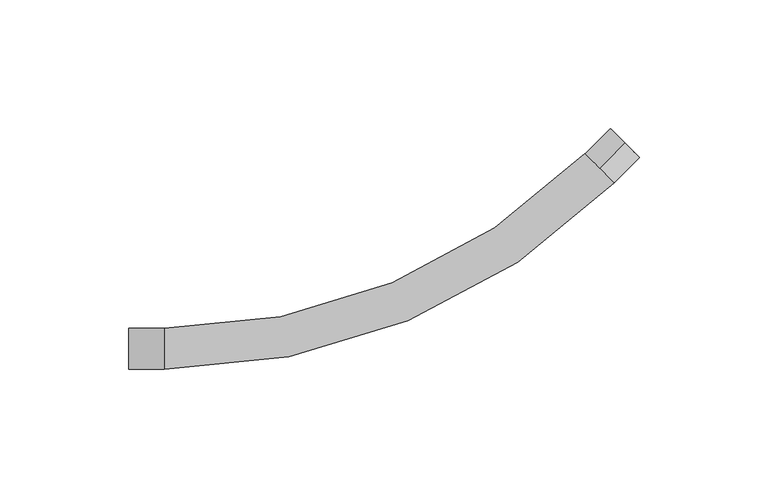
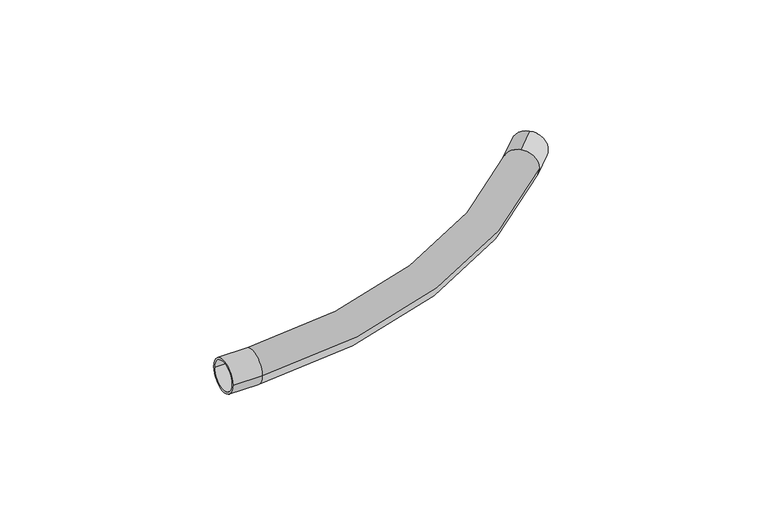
"""IFC4 building model written with IfcOpenShell, lengths in millimetres: cable carrier fitting geometry, КНС_МуфтаГибкаяТрубаТруба_IP64_DKC : Коробка."""

from ifc_helpers import new_model, si_unit, point, frame, origin, place, context, project, spatial, polyline, circle_curve, ellipse_curve, trimmed, source, transform, mapped, element, save
from ifc_brep_helpers import plane_surface, cylinder_surface, revolved_surface, advanced_brep


def cable_carrier_fitting_b661eac2(model_context):
    return source(origin(), model_context, "Body", "AdvancedBrep", [
        advanced_brep(
        [(-113.1499005, -8.0, 0.0), (-113.1499005, 8.0, 0.0), (-113.1499005, -7.0, 0.0), (-113.1499005, 7.0, 0.0), (-99.1499005, -8.0, 0.0), (-99.1499005, 8.0, 0.0), (-99.1499005, -7.0, 0.0), (-99.1499005, 7.0, 0.0), (70.109567, 70.109567, 7.0), (70.109567, 70.109567, -7.0), (75.7664212, 64.4527127, 0.0), (70.109567, 70.109567, 8.0), (64.4527127, 75.7664212, 0.0), (70.109567, 70.109567, -8.0), (80.0090619, 80.0090619, -8.0), (80.0090619, 80.0090619, 8.0), (80.0090619, 80.0090619, -7.0), (80.0090619, 80.0090619, 7.0)],
        [
            (0, 1, circle_curve(frame((-113.1499005, 0.0, 0.0), z_axis=(-1.0, 0.0, 0.0), x_axis=(0.0, 1.0, 0.0)), 8.0)),
            (1, 0, circle_curve(frame((-113.1499005, 0.0, 0.0), z_axis=(-1.0, 0.0, 0.0), x_axis=(0.0, 1.0, 0.0)), 8.0)),
            (2, 3, circle_curve(frame((-113.1499005, 0.0, 0.0), z_axis=(1.0, 0.0, 0.0), x_axis=(0.0, 1.0, 0.0)), 7.0)),
            (3, 2, circle_curve(frame((-113.1499005, 0.0, 0.0), z_axis=(1.0, 0.0, 0.0), x_axis=(0.0, 1.0, 0.0)), 7.0)),
            (0, 4),
            (4, 5, circle_curve(frame((-99.1499005, 0.0, 0.0), z_axis=(-1.0, 0.0, 0.0), x_axis=(0.0, 1.0, 0.0)), 8.0)),
            (5, 1),
            (5, 4, circle_curve(frame((-99.1499005, 0.0, 0.0), z_axis=(-1.0, 0.0, 0.0), x_axis=(0.0, 1.0, 0.0)), 8.0)),
            (2, 6),
            (6, 7, circle_curve(frame((-99.1499005, 0.0, 0.0), z_axis=(1.0, 0.0, 0.0), x_axis=(0.0, 1.0, 0.0)), 7.0)),
            (7, 3),
            (7, 6, circle_curve(frame((-99.1499005, 0.0, 0.0), z_axis=(1.0, 0.0, 0.0), x_axis=(0.0, 1.0, 0.0)), 7.0)),
            (8, 9, circle_curve(frame((70.109567, 70.109567, 0.0), z_axis=(0.7071067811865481, 0.707106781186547, 0.0), x_axis=(0.0, 0.0, 1.0)), 7.0)),
            (9, 8, circle_curve(frame((70.109567, 70.109567, 0.0), z_axis=(0.7071067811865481, 0.707106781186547, 0.0), x_axis=(0.0, 0.0, 1.0)), 7.0)),
            (4, 10, circle_curve(frame((-99.1499005, 239.3690344, 0.0), z_axis=(0.0, 0.0, 1.0), x_axis=(0.7071067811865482, -0.7071067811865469, 0.0)), 247.3690344)),
            (10, 11, circle_curve(frame((70.109567, 70.109567, 0.0), z_axis=(-0.707106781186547, -0.7071067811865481, 0.0), x_axis=(0.7071067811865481, -0.707106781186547, 0.0)), 8.0)),
            (11, 12, circle_curve(frame((70.109567, 70.109567, 0.0), z_axis=(-0.707106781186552, -0.7071067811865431, 0.0), x_axis=(0.7071067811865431, -0.707106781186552, 0.0)), 8.0)),
            (12, 5, circle_curve(frame((-99.1499005, 239.3690344, 0.0), z_axis=(0.0, 0.0, -1.0), x_axis=(0.7071067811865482, -0.7071067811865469, 0.0)), 231.3690344)),
            (12, 13, circle_curve(frame((70.109567, 70.109567, 0.0), z_axis=(-0.707106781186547, -0.7071067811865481, 0.0), x_axis=(0.7071067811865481, -0.707106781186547, 0.0)), 8.0)),
            (13, 10, circle_curve(frame((70.109567, 70.109567, 0.0), z_axis=(-0.707106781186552, -0.7071067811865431, 0.0), x_axis=(0.7071067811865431, -0.707106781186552, 0.0)), 8.0)),
            (14, 15, circle_curve(frame((80.0090619, 80.0090619, 0.0), z_axis=(0.7071067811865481, 0.707106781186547, 0.0), x_axis=(0.0, 0.0, 1.0)), 8.0)),
            (15, 14, circle_curve(frame((80.0090619, 80.0090619, 0.0), z_axis=(0.7071067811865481, 0.707106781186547, 0.0), x_axis=(0.0, 0.0, 1.0)), 8.0)),
            (16, 17, circle_curve(frame((80.0090619, 80.0090619, 0.0), z_axis=(-0.7071067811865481, -0.707106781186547, 0.0), x_axis=(0.0, 0.0, 1.0)), 7.0)),
            (17, 16, circle_curve(frame((80.0090619, 80.0090619, 0.0), z_axis=(-0.7071067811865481, -0.707106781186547, 0.0), x_axis=(0.0, 0.0, 1.0)), 7.0)),
            (14, 13),
            (11, 15),
            (16, 9),
            (8, 17),
        ],
        [
            plane_surface(frame((-113.1499005, 0.0, 0.0), z_axis=(-1.0, 0.0, 0.0), x_axis=(0.0, 0.0, 1.0))),
            cylinder_surface(frame((-113.1499005, 0.0, 0.0), z_axis=(-1.0, 0.0, 0.0), x_axis=(0.0, 1.0, 0.0)), 8.0),
            revolved_surface(polyline([(-99.1499005, 7.0, 0.0), (-113.1499005, 7.0, 0.0)]), (-113.1499005, 0.0, 0.0), (1.0, 0.0, 0.0)),
            plane_surface(frame((70.109567, 70.109567, 0.0), z_axis=(0.7071067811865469, 0.7071067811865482, 0.0), x_axis=(0.0, 0.0, 1.0))),
            plane_surface(frame((-99.1499005, 0.0, 0.0), z_axis=(-1.0, 0.0, 0.0), x_axis=(0.0, 0.0, 1.0))),
            revolved_surface(trimmed(ellipse_curve(frame((70.109567, 70.109567, 0.0), z_axis=(0.707106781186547, 0.7071067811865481, 0.0), x_axis=(0.7071067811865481, -0.707106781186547, 0.0)), 8.0, 8.0), [point((64.4527127, 75.7664212, 0.0))], [point((75.7664212, 64.4527127, 0.0))], True, "CARTESIAN"), (-99.1499005, 239.3690344, 0.0), (0.0, 0.0, -1.0)),
            revolved_surface(trimmed(ellipse_curve(frame((70.109567, 70.109567, 0.0), z_axis=(0.707106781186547, 0.7071067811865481, 0.0), x_axis=(0.7071067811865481, -0.707106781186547, 0.0)), 8.0, 8.0), [point((75.7664212, 64.4527127, 0.0))], [point((64.4527127, 75.7664212, 0.0))], True, "CARTESIAN"), (-99.1499005, 239.3690344, 0.0), (0.0, 0.0, -1.0)),
            plane_surface(frame((80.0090619, 80.0090619, 8.0), z_axis=(0.7071067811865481, 0.7071067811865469, 0.0), x_axis=(0.7071067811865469, -0.7071067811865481, 0.0))),
            cylinder_surface(frame((70.109567, 70.109567, 0.0), z_axis=(0.7071067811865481, 0.707106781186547, 0.0), x_axis=(0.0, 0.0, 1.0)), 8.0),
            revolved_surface(polyline([(70.109567, 70.109567, 7.0), (80.00906190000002, 80.0090619, 7.0)]), (70.109567, 70.109567, 0.0), (-0.7071067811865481, -0.707106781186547, 0.0)),
        ],
        [
            (0, [[1, 2], [3, 4]]),
            (1, [[-1, 5, 6, 7]]),
            (1, [[-2, -7, 8, -5]]),
            (2, [[-3, 9, 10, 11]]),
            (2, [[-4, -11, 12, -9]]),
            (3, [[13, 14]]),
            (4, [[-10, -12]]),
            (5, [[15, 16, 17, 18, -6]]),
            (6, [[-15, -8, -18, 19, 20]]),
            (7, [[21, 22], [23, 24]]),
            (8, [[-21, 25, -19, -17, 26]]),
            (8, [[-22, -26, -16, -20, -25]]),
            (9, [[-23, 27, -13, 28]]),
            (9, [[-24, -28, -14, -27]]),
        ],
    ),
    ])


if __name__ == "__main__":
    model = new_model("IFC4")
    model_context = context("Model", 3, world=origin())
    ifc_project = project(units=[si_unit("LENGTHUNIT", "METRE", prefix="MILLI")], contexts=[model_context])
    site = spatial("IfcSite", under=ifc_project)
    building = spatial("IfcBuilding", under=site)
    placement = place(None, origin())
    cable_carrier_fitting_shape = cable_carrier_fitting_b661eac2(model_context)
    element("IfcCableCarrierFitting", 1, ObjectType="КНС_МуфтаГибкаяТрубаТруба_IP64_DKC : Коробка", at=placement, inside=building, context=model_context, shape_type="MappedRepresentation", body=[
        mapped(cable_carrier_fitting_shape, transform((0.0, 0.0, 0.0), x_axis=(1.0, 0.0, 0.0), y_axis=(0.0, 1.0, 0.0), z_axis=(0.0, 0.0, 1.0))),
    ])
    save(model, "model.ifc")
